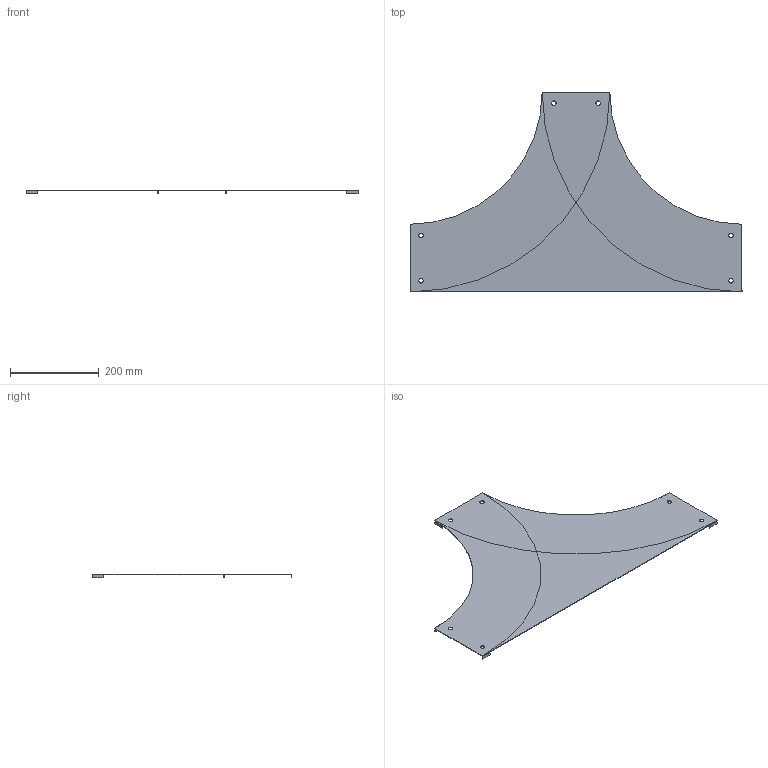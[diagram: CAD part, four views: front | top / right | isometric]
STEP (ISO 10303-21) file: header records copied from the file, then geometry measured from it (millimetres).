
FILE_DESCRIPTION(/* description */ ('','CAx-IF Rec.Pracs.---Representation and Presentation of Product Manufacturing Information (PMI)---4.0---2014-10-13'),/* implementation_level */ '2;1');
FILE_NAME(/* name */ 'Eurostrut_EETC100-300_Cover T-Piece for Cable Ladder ECL.step',/* time_stamp */ '2026-09-10T09:50:23+02:00',/* author */ (''),/* organization */ (''),/* preprocessor_version */ 'ST-DEVELOPER v20.1',/* originating_system */ 'Autodesk Revit 2027 27.2.0.39',/* authorisation */ '');
FILE_SCHEMA (('AP242_MANAGED_MODEL_BASED_3D_ENGINEERING_MIM_LF { 1 0 10303 442 2 1 4 }'));
Length unit declared in the file: millimetre
Products named in the file (7): TopLevelAssembly; Extrusion; Joined Solid Geometry; Joined Solid Geometry_1; Joined Solid Geometry_2; Joined Solid Geometry_3; Joined Solid Geometry_4
Assembly tree (6 placements, depth 2):
  TopLevelAssembly
    Extrusion
    Joined Solid Geometry
    Joined Solid Geometry_1
    Joined Solid Geometry_2
    Joined Solid Geometry_3
    Joined Solid Geometry_4
Bounding box: 750 x 451.5 x 9 mm (x, y, z)
Volume: 568408.1 mm3; surface area: 766795.1 mm2
Topology: 9 solids, 9 shells, 84 faces, 198 edges, 132 vertices
Faces by surface type: plane 42, cylinder 42
Entity records: 2630 total; most frequent: DIRECTION 476, CARTESIAN_POINT 427, ORIENTED_EDGE 396, EDGE_CURVE 198, AXIS2_PLACEMENT_3D 181, VERTEX_POINT 132, LINE 114, VECTOR 114
